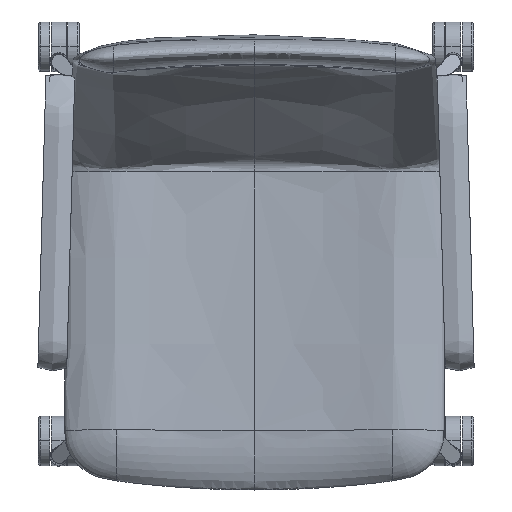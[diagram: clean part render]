
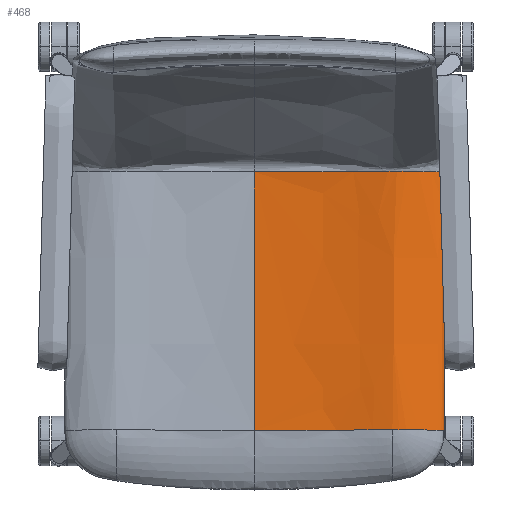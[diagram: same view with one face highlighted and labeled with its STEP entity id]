
A CAD part, top view. The second image highlights one B-rep face of the part: STEP entity #468.
In plain terms, the highlighted free-form (B-spline) face has degree [3, 3] with [4, 9] control points.
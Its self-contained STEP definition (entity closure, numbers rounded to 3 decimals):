
#121=B_SPLINE_CURVE_WITH_KNOTS('',3,(#12537,#12538,#12539,#12540,#12541,
#12542,#12543,#12544,#12545),.UNSPECIFIED.,.F.,.F.,(4,1,1,1,1,1,4),(0.,
73.633,147.266,220.899,294.532,368.165,
441.798),.UNSPECIFIED.);
#124=B_SPLINE_CURVE_WITH_KNOTS('',3,(#12562,#12563,#12564,#12565,#12566,
#12567,#12568,#12569,#12570,#12571,#12572,#12573,#12574,#12575,#12576,#12577,
#12578,#12579,#12580,#12581,#12582,#12583,#12584,#12585,#12586),
 .UNSPECIFIED.,.F.,.F.,(4,1,1,1,1,1,1,1,1,1,1,1,1,1,2,1,1,1,1,1,1,4),(0.,
4.583,9.166,13.749,18.332,22.915,
27.498,36.664,54.995,73.327,91.659,
100.825,109.991,119.157,120.717,128.322,
146.654,164.986,183.318,201.649,219.981,
238.313),.UNSPECIFIED.);
#128=B_SPLINE_CURVE_WITH_KNOTS('',3,(#12693,#12694,#12695,#12696),
 .UNSPECIFIED.,.F.,.F.,(4,4),(-146.56,0.),.UNSPECIFIED.);
#129=B_SPLINE_CURVE_WITH_KNOTS('',3,(#12697,#12698,#12699,#12700,#12701),
 .UNSPECIFIED.,.F.,.F.,(4,1,4),(298.037,368.165,441.798),
 .UNSPECIFIED.);
#130=B_SPLINE_CURVE_WITH_KNOTS('',3,(#12702,#12703,#12704,#12705,#12706,
#12707,#12708),.UNSPECIFIED.,.F.,.F.,(4,3,4),(0.,146.56,313.738),
 .UNSPECIFIED.);
#131=B_SPLINE_CURVE_WITH_KNOTS('',3,(#12709,#12710,#12711,#12712,#12713,
#12714,#12715,#12716),.UNSPECIFIED.,.F.,.F.,(4,1,1,1,1,4),(67.257,
73.633,147.266,220.899,294.532,298.037),
 .UNSPECIFIED.);
#334=B_SPLINE_SURFACE_WITH_KNOTS('',3,3,((#9791,#9792,#9793,#9794,#9795,
#9796,#9797,#9798,#9799),(#9800,#9801,#9802,#9803,#9804,#9805,#9806,#9807,
#9808),(#9809,#9810,#9811,#9812,#9813,#9814,#9815,#9816,#9817),(#9818,#9819,
#9820,#9821,#9822,#9823,#9824,#9825,#9826)),.UNSPECIFIED.,.F.,.F.,.F.,(4,
4),(4,1,1,1,1,1,4),(0.,313.738),(-441.798,-368.165,
-294.532,-220.899,-147.266,-73.633,
0.),.UNSPECIFIED.);
#468=ADVANCED_FACE('',(#734),#334,.T.);
#734=FACE_OUTER_BOUND('',#1012,.T.);
#1012=EDGE_LOOP('',(#1469,#1470,#1471,#1472,#1473,#1474));
#1469=ORIENTED_EDGE('',*,*,#2480,.T.);
#1470=ORIENTED_EDGE('',*,*,#2484,.T.);
#1471=ORIENTED_EDGE('',*,*,#2477,.T.);
#1472=ORIENTED_EDGE('',*,*,#2486,.T.);
#1473=ORIENTED_EDGE('',*,*,#2485,.F.);
#1474=ORIENTED_EDGE('',*,*,#2487,.F.);
#2477=EDGE_CURVE('',#3409,#3408,#121,.T.);
#2480=EDGE_CURVE('',#3412,#3410,#124,.T.);
#2484=EDGE_CURVE('',#3410,#3409,#128,.T.);
#2485=EDGE_CURVE('',#3413,#3414,#129,.T.);
#2486=EDGE_CURVE('',#3408,#3414,#130,.T.);
#2487=EDGE_CURVE('',#3412,#3413,#131,.T.);
#3408=VERTEX_POINT('',#12173);
#3409=VERTEX_POINT('',#12174);
#3410=VERTEX_POINT('',#12175);
#3412=VERTEX_POINT('',#12177);
#3413=VERTEX_POINT('',#12178);
#3414=VERTEX_POINT('',#12179);
#9791=CARTESIAN_POINT('',(-1.957,104.914,471.568));
#9792=CARTESIAN_POINT('',(70.318,104.914,471.568));
#9793=CARTESIAN_POINT('',(137.857,105.391,481.123));
#9794=CARTESIAN_POINT('',(165.383,105.784,488.971));
#9795=CARTESIAN_POINT('',(202.349,105.447,482.241));
#9796=CARTESIAN_POINT('',(241.658,104.723,467.757));
#9797=CARTESIAN_POINT('',(199.201,103.488,443.05));
#9798=CARTESIAN_POINT('',(108.027,102.476,422.811));
#9799=CARTESIAN_POINT('',(-1.957,102.476,422.811));
#9800=CARTESIAN_POINT('',(-1.957,0.465,476.79));
#9801=CARTESIAN_POINT('',(70.318,0.465,476.79));
#9802=CARTESIAN_POINT('',(137.857,0.943,486.345));
#9803=CARTESIAN_POINT('',(165.383,1.335,494.193));
#9804=CARTESIAN_POINT('',(202.349,0.999,487.464));
#9805=CARTESIAN_POINT('',(241.658,0.275,472.979));
#9806=CARTESIAN_POINT('',(199.201,-0.961,448.272));
#9807=CARTESIAN_POINT('',(97.687,-2.234,422.811));
#9808=CARTESIAN_POINT('',(-1.957,-2.234,422.811));
#9809=CARTESIAN_POINT('',(-1.957,-103.985,482.013));
#9810=CARTESIAN_POINT('',(70.318,-103.985,482.013));
#9811=CARTESIAN_POINT('',(137.857,-103.507,491.568));
#9812=CARTESIAN_POINT('',(165.383,-103.115,499.416));
#9813=CARTESIAN_POINT('',(202.349,-103.451,492.686));
#9814=CARTESIAN_POINT('',(241.658,-104.175,478.202));
#9815=CARTESIAN_POINT('',(199.201,-105.411,453.495));
#9816=CARTESIAN_POINT('',(87.346,-106.945,422.811));
#9817=CARTESIAN_POINT('',(-1.957,-106.945,422.811));
#9818=CARTESIAN_POINT('',(-1.957,-208.433,487.235));
#9819=CARTESIAN_POINT('',(70.318,-208.433,487.235));
#9820=CARTESIAN_POINT('',(137.857,-207.955,496.79));
#9821=CARTESIAN_POINT('',(165.383,-207.563,504.638));
#9822=CARTESIAN_POINT('',(202.349,-207.899,497.909));
#9823=CARTESIAN_POINT('',(241.658,-208.623,483.424));
#9824=CARTESIAN_POINT('',(199.201,-209.859,458.717));
#9825=CARTESIAN_POINT('',(77.006,-211.654,422.811));
#9826=CARTESIAN_POINT('',(-1.957,-211.654,422.811));
#12173=CARTESIAN_POINT('',(-1.957,104.914,471.568));
#12174=CARTESIAN_POINT('',(-1.957,102.476,422.811));
#12175=CARTESIAN_POINT('',(-1.957,-44.267,422.811));
#12177=CARTESIAN_POINT('',(165.43,-210.276,450.362));
#12178=CARTESIAN_POINT('',(165.43,-207.686,502.166));
#12179=CARTESIAN_POINT('',(-1.957,-208.433,487.235));
#12537=CARTESIAN_POINT('',(-1.957,102.476,422.811));
#12538=CARTESIAN_POINT('',(108.027,102.476,422.811));
#12539=CARTESIAN_POINT('',(199.201,103.488,443.05));
#12540=CARTESIAN_POINT('',(241.658,104.723,467.757));
#12541=CARTESIAN_POINT('',(202.349,105.447,482.241));
#12542=CARTESIAN_POINT('',(165.383,105.784,488.971));
#12543=CARTESIAN_POINT('',(137.857,105.391,481.123));
#12544=CARTESIAN_POINT('',(70.318,104.914,471.568));
#12545=CARTESIAN_POINT('',(-1.957,104.914,471.568));
#12562=CARTESIAN_POINT('',(165.43,-210.276,450.362));
#12563=CARTESIAN_POINT('',(164.361,-209.227,449.962));
#12564=CARTESIAN_POINT('',(162.229,-207.135,449.17));
#12565=CARTESIAN_POINT('',(159.046,-204.009,448.011));
#12566=CARTESIAN_POINT('',(155.876,-200.896,446.882));
#12567=CARTESIAN_POINT('',(152.719,-197.794,445.781));
#12568=CARTESIAN_POINT('',(149.572,-194.701,444.708));
#12569=CARTESIAN_POINT('',(145.389,-190.588,443.315));
#12570=CARTESIAN_POINT('',(138.096,-183.411,440.976));
#12571=CARTESIAN_POINT('',(127.724,-173.193,437.912));
#12572=CARTESIAN_POINT('',(115.26,-160.891,434.665));
#12573=CARTESIAN_POINT('',(104.779,-150.528,432.308));
#12574=CARTESIAN_POINT('',(96.289,-142.122,430.626));
#12575=CARTESIAN_POINT('',(89.857,-135.748,429.465));
#12576=CARTESIAN_POINT('',(85.149,-131.079,428.696));
#12577=CARTESIAN_POINT('',(82.591,-128.54,428.304));
#12578=CARTESIAN_POINT('',(80.402,-126.368,427.971));
#12579=CARTESIAN_POINT('',(74.209,-120.22,427.074));
#12580=CARTESIAN_POINT('',(63.647,-109.722,425.79));
#12581=CARTESIAN_POINT('',(50.534,-96.669,424.585));
#12582=CARTESIAN_POINT('',(37.423,-83.601,423.725));
#12583=CARTESIAN_POINT('',(24.309,-70.514,423.168));
#12584=CARTESIAN_POINT('',(11.185,-57.406,422.868));
#12585=CARTESIAN_POINT('',(2.426,-48.65,422.811));
#12586=CARTESIAN_POINT('',(-1.957,-44.267,422.811));
#12693=CARTESIAN_POINT('',(-1.957,-44.267,422.811));
#12694=CARTESIAN_POINT('',(-1.957,4.647,422.811));
#12695=CARTESIAN_POINT('',(-1.957,53.562,422.811));
#12696=CARTESIAN_POINT('',(-1.957,102.476,422.811));
#12697=CARTESIAN_POINT('',(165.43,-207.686,502.166));
#12698=CARTESIAN_POINT('',(155.306,-207.706,501.771));
#12699=CARTESIAN_POINT('',(136.249,-207.966,496.563));
#12700=CARTESIAN_POINT('',(70.318,-208.433,487.235));
#12701=CARTESIAN_POINT('',(-1.957,-208.433,487.235));
#12702=CARTESIAN_POINT('',(-1.957,104.914,471.568));
#12703=CARTESIAN_POINT('',(-1.957,56.122,474.007));
#12704=CARTESIAN_POINT('',(-1.957,7.329,476.447));
#12705=CARTESIAN_POINT('',(-1.957,-41.463,478.887));
#12706=CARTESIAN_POINT('',(-1.957,-97.12,481.669));
#12707=CARTESIAN_POINT('',(-1.957,-152.777,484.452));
#12708=CARTESIAN_POINT('',(-1.957,-208.433,487.235));
#12709=CARTESIAN_POINT('',(165.43,-210.276,450.362));
#12710=CARTESIAN_POINT('',(169.037,-210.217,451.554));
#12711=CARTESIAN_POINT('',(212.128,-209.482,466.239));
#12712=CARTESIAN_POINT('',(241.658,-208.623,483.424));
#12713=CARTESIAN_POINT('',(202.349,-207.899,497.909));
#12714=CARTESIAN_POINT('',(177.118,-207.669,502.502));
#12715=CARTESIAN_POINT('',(165.936,-207.685,502.185));
#12716=CARTESIAN_POINT('',(165.43,-207.686,502.166));
